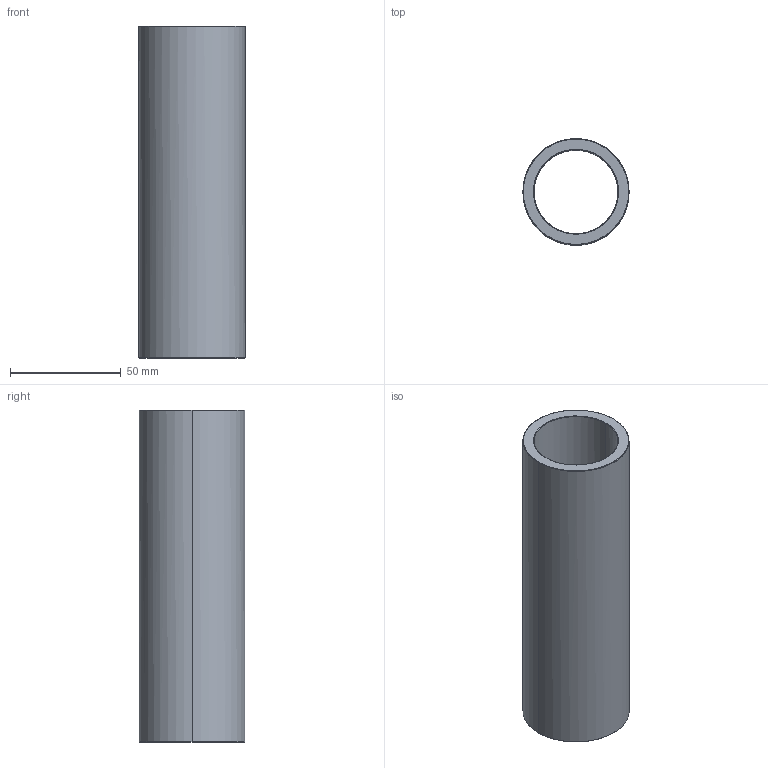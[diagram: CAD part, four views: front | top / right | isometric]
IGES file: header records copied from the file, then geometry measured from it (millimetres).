
Start section: Write IGES format                                    datakit 2008 (c)
Global section: file name: Unknown; native system: DATAKIT Converter; preprocessor: Unknown; author: Unknown; organization: Unknown; date: 950613.180003; units: millimetre
Bounding box: 48 x 47.89 x 150 mm (x, y, z)
Surface area: 41814.1 mm2 (no closed solid volume)
Topology: 0 solids, 0 shells, 14 faces, 56 edges, 56 vertices
Faces by surface type: revolution 12, bspline 2
